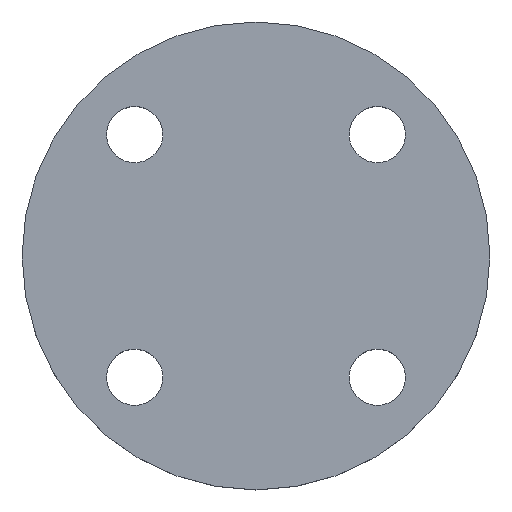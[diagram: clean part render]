
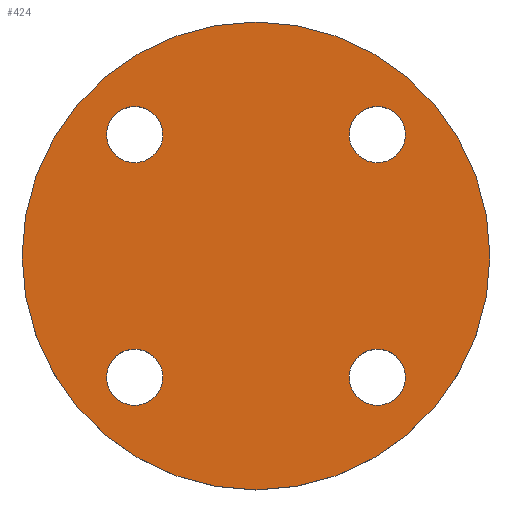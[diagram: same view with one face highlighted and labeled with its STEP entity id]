
A CAD part, top view. The second image highlights one B-rep face of the part: STEP entity #424.
In plain terms, the highlighted planar face has unit normal (0, 0, 1).
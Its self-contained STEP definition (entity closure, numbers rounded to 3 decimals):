
#1 = AXIS2_PLACEMENT_3D ( 'NONE', #84, #83, #122 ) ;
#4 = AXIS2_PLACEMENT_3D ( 'NONE', #212, #213, #214 ) ;
#5 = CIRCLE ( 'NONE', #4, 75. ) ;
#23 = CIRCLE ( 'NONE', #143, 9. ) ;
#27 = CIRCLE ( 'NONE', #592, 9. ) ;
#28 = CARTESIAN_POINT ( 'NONE',  ( -75., 0., 0. ) ) ;
#83 = DIRECTION ( 'NONE',  ( 0., 0., -1. ) ) ;
#84 = CARTESIAN_POINT ( 'NONE',  ( 38.891, -38.891, 0. ) ) ;
#85 = DIRECTION ( 'NONE',  ( 0., 0., -1. ) ) ;
#102 = DIRECTION ( 'NONE',  ( -1., 0., 0. ) ) ;
#122 = DIRECTION ( 'NONE',  ( -1., 0., 0. ) ) ;
#138 = FACE_BOUND ( 'NONE', #462, .T. ) ;
#139 = FACE_BOUND ( 'NONE', #314, .T. ) ;
#140 = FACE_BOUND ( 'NONE', #476, .T. ) ;
#141 = FACE_BOUND ( 'NONE', #303, .T. ) ;
#142 = FACE_OUTER_BOUND ( 'NONE', #327, .T. ) ;
#143 = AXIS2_PLACEMENT_3D ( 'NONE', #630, #631, #632 ) ;
#144 = PLANE ( 'NONE',  #346 ) ;
#145 = CARTESIAN_POINT ( 'NONE',  ( 0., 0., 0. ) ) ;
#146 = DIRECTION ( 'NONE',  ( 0., 0., 1. ) ) ;
#147 = DIRECTION ( 'NONE',  ( 1., 0., 0. ) ) ;
#151 = AXIS2_PLACEMENT_3D ( 'NONE', #622, #623, #624 ) ;
#156 = AXIS2_PLACEMENT_3D ( 'NONE', #655, #656, #657 ) ;
#168 = AXIS2_PLACEMENT_3D ( 'NONE', #638, #640, #642 ) ;
#173 = CARTESIAN_POINT ( 'NONE',  ( -29.891, -38.891, 0. ) ) ;
#191 = EDGE_CURVE ( 'NONE', #309, #457, #284, .T. ) ;
#193 = CARTESIAN_POINT ( 'NONE',  ( 75., 0., 0. ) ) ;
#198 = CARTESIAN_POINT ( 'NONE',  ( 29.891, -38.891, 0. ) ) ;
#212 = CARTESIAN_POINT ( 'NONE',  ( 0., 0., 0. ) ) ;
#213 = DIRECTION ( 'NONE',  ( 0., 0., 1. ) ) ;
#214 = DIRECTION ( 'NONE',  ( 1., 0., 0. ) ) ;
#260 = CIRCLE ( 'NONE', #264, 9. ) ;
#264 = AXIS2_PLACEMENT_3D ( 'NONE', #660, #661, #663 ) ;
#272 = AXIS2_PLACEMENT_3D ( 'NONE', #545, #546, #547 ) ;
#281 = CIRCLE ( 'NONE', #151, 9. ) ;
#283 = EDGE_CURVE ( 'NONE', #320, #326, #369, .T. ) ;
#284 = CIRCLE ( 'NONE', #272, 9. ) ;
#285 = EDGE_CURVE ( 'NONE', #326, #320, #281, .T. ) ;
#291 = EDGE_CURVE ( 'NONE', #305, #472, #23, .T. ) ;
#301 = VERTEX_POINT ( 'NONE', #635 ) ;
#303 = EDGE_LOOP ( 'NONE', ( #387, #388 ) ) ;
#305 = VERTEX_POINT ( 'NONE', #636 ) ;
#307 = EDGE_CURVE ( 'NONE', #322, #301, #328, .T. ) ;
#309 = VERTEX_POINT ( 'NONE', #643 ) ;
#314 = EDGE_LOOP ( 'NONE', ( #383, #384 ) ) ;
#320 = VERTEX_POINT ( 'NONE', #652 ) ;
#322 = VERTEX_POINT ( 'NONE', #653 ) ;
#323 = EDGE_CURVE ( 'NONE', #466, #399, #487, .T. ) ;
#326 = VERTEX_POINT ( 'NONE', #659 ) ;
#327 = EDGE_LOOP ( 'NONE', ( #389, #391 ) ) ;
#328 = CIRCLE ( 'NONE', #168, 9. ) ;
#329 = EDGE_CURVE ( 'NONE', #301, #322, #260, .T. ) ;
#330 = CARTESIAN_POINT ( 'NONE',  ( -38.891, -38.891, 0. ) ) ;
#346 = AXIS2_PLACEMENT_3D ( 'NONE', #145, #146, #147 ) ;
#369 = CIRCLE ( 'NONE', #504, 9. ) ;
#381 = ORIENTED_EDGE ( 'NONE', *, *, #291, .T. ) ;
#382 = ORIENTED_EDGE ( 'NONE', *, *, #641, .T. ) ;
#383 = ORIENTED_EDGE ( 'NONE', *, *, #648, .T. ) ;
#384 = ORIENTED_EDGE ( 'NONE', *, *, #191, .T. ) ;
#385 = ORIENTED_EDGE ( 'NONE', *, *, #283, .T. ) ;
#386 = ORIENTED_EDGE ( 'NONE', *, *, #285, .T. ) ;
#387 = ORIENTED_EDGE ( 'NONE', *, *, #329, .T. ) ;
#388 = ORIENTED_EDGE ( 'NONE', *, *, #307, .T. ) ;
#389 = ORIENTED_EDGE ( 'NONE', *, *, #323, .T. ) ;
#391 = ORIENTED_EDGE ( 'NONE', *, *, #553, .T. ) ;
#399 = VERTEX_POINT ( 'NONE', #28 ) ;
#424 = ADVANCED_FACE ( 'NONE', ( #138, #139, #140, #141, #142 ), #144, .T. ) ;
#457 = VERTEX_POINT ( 'NONE', #173 ) ;
#462 = EDGE_LOOP ( 'NONE', ( #381, #382 ) ) ;
#466 = VERTEX_POINT ( 'NONE', #193 ) ;
#472 = VERTEX_POINT ( 'NONE', #198 ) ;
#476 = EDGE_LOOP ( 'NONE', ( #385, #386 ) ) ;
#487 = CIRCLE ( 'NONE', #156, 75. ) ;
#504 = AXIS2_PLACEMENT_3D ( 'NONE', #619, #620, #621 ) ;
#545 = CARTESIAN_POINT ( 'NONE',  ( -38.891, -38.891, 0. ) ) ;
#546 = DIRECTION ( 'NONE',  ( 0., 0., -1. ) ) ;
#547 = DIRECTION ( 'NONE',  ( -1., 0., 0. ) ) ;
#553 = EDGE_CURVE ( 'NONE', #399, #466, #5, .T. ) ;
#592 = AXIS2_PLACEMENT_3D ( 'NONE', #330, #85, #102 ) ;
#604 = CIRCLE ( 'NONE', #1, 9. ) ;
#619 = CARTESIAN_POINT ( 'NONE',  ( -38.891, 38.891, 0. ) ) ;
#620 = DIRECTION ( 'NONE',  ( 0., 0., -1. ) ) ;
#621 = DIRECTION ( 'NONE',  ( -1., 0., 0. ) ) ;
#622 = CARTESIAN_POINT ( 'NONE',  ( -38.891, 38.891, 0. ) ) ;
#623 = DIRECTION ( 'NONE',  ( 0., 0., -1. ) ) ;
#624 = DIRECTION ( 'NONE',  ( -1., 0., 0. ) ) ;
#630 = CARTESIAN_POINT ( 'NONE',  ( 38.891, -38.891, 0. ) ) ;
#631 = DIRECTION ( 'NONE',  ( 0., 0., -1. ) ) ;
#632 = DIRECTION ( 'NONE',  ( -1., 0., 0. ) ) ;
#635 = CARTESIAN_POINT ( 'NONE',  ( 47.891, 38.891, 0. ) ) ;
#636 = CARTESIAN_POINT ( 'NONE',  ( 47.891, -38.891, 0. ) ) ;
#638 = CARTESIAN_POINT ( 'NONE',  ( 38.891, 38.891, 0. ) ) ;
#640 = DIRECTION ( 'NONE',  ( 0., 0., -1. ) ) ;
#641 = EDGE_CURVE ( 'NONE', #472, #305, #604, .T. ) ;
#642 = DIRECTION ( 'NONE',  ( -1., 0., 0. ) ) ;
#643 = CARTESIAN_POINT ( 'NONE',  ( -47.891, -38.891, 0. ) ) ;
#648 = EDGE_CURVE ( 'NONE', #457, #309, #27, .T. ) ;
#652 = CARTESIAN_POINT ( 'NONE',  ( -29.891, 38.891, 0. ) ) ;
#653 = CARTESIAN_POINT ( 'NONE',  ( 29.891, 38.891, 0. ) ) ;
#655 = CARTESIAN_POINT ( 'NONE',  ( 0., 0., 0. ) ) ;
#656 = DIRECTION ( 'NONE',  ( 0., 0., 1. ) ) ;
#657 = DIRECTION ( 'NONE',  ( 1., 0., 0. ) ) ;
#659 = CARTESIAN_POINT ( 'NONE',  ( -47.891, 38.891, 0. ) ) ;
#660 = CARTESIAN_POINT ( 'NONE',  ( 38.891, 38.891, 0. ) ) ;
#661 = DIRECTION ( 'NONE',  ( 0., 0., -1. ) ) ;
#663 = DIRECTION ( 'NONE',  ( -1., 0., 0. ) ) ;
